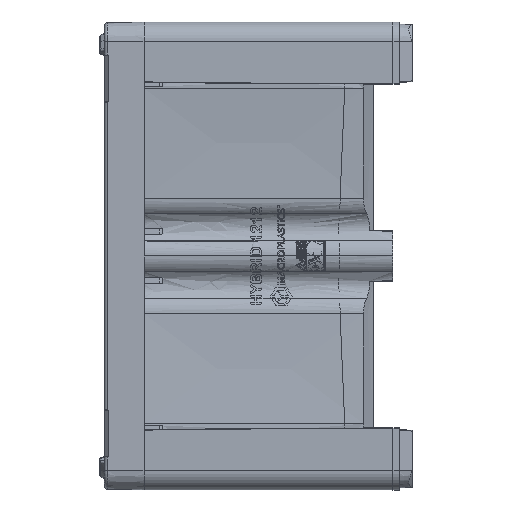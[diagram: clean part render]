
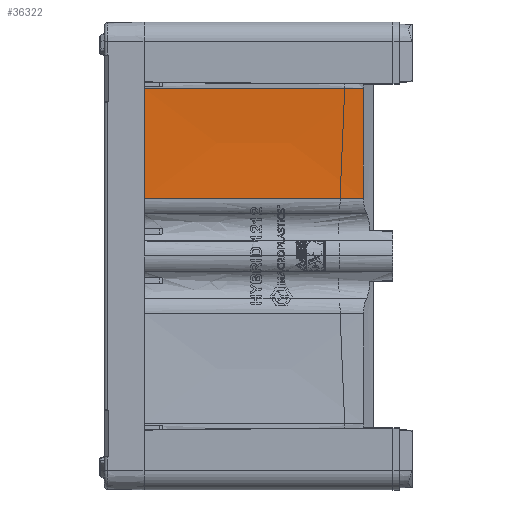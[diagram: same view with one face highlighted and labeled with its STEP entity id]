
A CAD part, left-side view. The second image highlights one B-rep face of the part: STEP entity #36322.
In plain terms, the highlighted free-form (B-spline) face has degree [3, 3] with [7, 4] control points.
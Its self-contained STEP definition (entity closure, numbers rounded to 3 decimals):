
#105 = CARTESIAN_POINT ( 'NONE',  ( -540.932, 125.716, 195.091 ) ) ;
#2969 = CARTESIAN_POINT ( 'NONE',  ( -575.478, 688.4, 429.838 ) ) ;
#7768 = B_SPLINE_SURFACE_WITH_KNOTS ( 'NONE', 3, 3, ( 
 ( #250627, #122458, #221772, #199407 ),
 ( #301811, #225001, #247406, #276207 ),
 ( #327429, #42370, #43441, #67966 ),
 ( #297415, #171546, #271838, #272924 ),
 ( #145895, #18954, #44549, #222844 ),
 ( #228356, #23343, #24473, #329638 ),
 ( #178134, #126823, #255077, #202724 ) ),
 .UNSPECIFIED., .F., .F., .F.,
 ( 4, 3, 4 ),
 ( 4, 4 ),
 ( 0., 0.5, 1. ),
 ( 0.033, 0.858 ),
 .UNSPECIFIED. ) ;
#9906 = CARTESIAN_POINT ( 'NONE',  ( -568.93, 500.914, 429.838 ) ) ;
#14295 = CARTESIAN_POINT ( 'NONE',  ( -570.411, 688.4, 383.046 ) ) ;
#15451 = CARTESIAN_POINT ( 'NONE',  ( -560.264, 688.4, 148.032 ) ) ;
#18472 = B_SPLINE_CURVE_WITH_KNOTS ( 'NONE', 3,
 ( #110136, #9906, #260650, #135759 ),
 .UNSPECIFIED., .F., .F.,
 ( 4, 4 ),
 ( 0.147, 0.963 ),
 .UNSPECIFIED. ) ;
#18954 = CARTESIAN_POINT ( 'NONE',  ( -553.469, 312.147, 336.142 ) ) ;
#22453 = ORIENTED_EDGE ( 'NONE', *, *, #126535, .F. ) ;
#22555 = CARTESIAN_POINT ( 'NONE',  ( -560.264, 688.4, 148.032 ) ) ;
#23343 = CARTESIAN_POINT ( 'NONE',  ( -557.275, 312.147, 383.076 ) ) ;
#24151 = EDGE_LOOP ( 'NONE', ( #198689, #82919, #48283, #22453 ) ) ;
#24473 = CARTESIAN_POINT ( 'NONE',  ( -563.903, 501.962, 383.076 ) ) ;
#25743 = CARTESIAN_POINT ( 'NONE',  ( -551.083, 125.869, 383.02 ) ) ;
#30398 = B_SPLINE_CURVE_WITH_KNOTS ( 'NONE', 3,
 ( #22555, #48111, #180680, #256477 ),
 .UNSPECIFIED., .F., .F.,
 ( 4, 4 ),
 ( 0.147, 0.963 ),
 .UNSPECIFIED. ) ;
#36322 = ADVANCED_FACE ( 'NONE', ( #200907 ), #7768, .F. ) ;
#42370 = CARTESIAN_POINT ( 'NONE',  ( -548.394, 312.147, 242.139 ) ) ;
#43441 = CARTESIAN_POINT ( 'NONE',  ( -555.022, 501.962, 242.139 ) ) ;
#44549 = CARTESIAN_POINT ( 'NONE',  ( -560.097, 501.962, 336.142 ) ) ;
#45356 = VERTEX_POINT ( 'NONE', #145463 ) ;
#48111 = CARTESIAN_POINT ( 'NONE',  ( -553.715, 500.837, 148.032 ) ) ;
#48283 = ORIENTED_EDGE ( 'NONE', *, *, #67551, .F. ) ;
#53514 = EDGE_CURVE ( 'NONE', #45356, #111614, #329476, .T. ) ;
#58364 = B_SPLINE_CURVE_WITH_KNOTS ( 'NONE', 3,
 ( #220407, #93342, #243862, #139018, #14295, #140148 ),
 .UNSPECIFIED., .F., .F.,
 ( 4, 2, 4 ),
 ( 0., 0.141, 0.282 ),
 .UNSPECIFIED. ) ;
#67551 = EDGE_CURVE ( 'NONE', #108039, #111614, #18472, .T. ) ;
#67966 = CARTESIAN_POINT ( 'NONE',  ( -561.651, 691.776, 242.139 ) ) ;
#80267 = CARTESIAN_POINT ( 'NONE',  ( -543.154, 125.75, 265.647 ) ) ;
#82919 = ORIENTED_EDGE ( 'NONE', *, *, #53514, .T. ) ;
#93342 = CARTESIAN_POINT ( 'NONE',  ( -560.264, 688.4, 195.098 ) ) ;
#102527 = CARTESIAN_POINT ( 'NONE',  ( -547.278, 125.812, 336.115 ) ) ;
#108039 = VERTEX_POINT ( 'NONE', #2969 ) ;
#110136 = CARTESIAN_POINT ( 'NONE',  ( -575.478, 688.4, 429.838 ) ) ;
#111614 = VERTEX_POINT ( 'NONE', #283199 ) ;
#122458 = CARTESIAN_POINT ( 'NONE',  ( -547.125, 312.147, 148.032 ) ) ;
#126535 = EDGE_CURVE ( 'NONE', #257139, #108039, #58364, .T. ) ;
#126823 = CARTESIAN_POINT ( 'NONE',  ( -562.338, 312.148, 429.838 ) ) ;
#135759 = CARTESIAN_POINT ( 'NONE',  ( -555.836, 125.942, 429.838 ) ) ;
#138166 = EDGE_CURVE ( 'NONE', #257139, #45356, #30398, .T. ) ;
#139018 = CARTESIAN_POINT ( 'NONE',  ( -566.608, 688.4, 336.151 ) ) ;
#140148 = CARTESIAN_POINT ( 'NONE',  ( -575.478, 688.4, 429.838 ) ) ;
#145463 = CARTESIAN_POINT ( 'NONE',  ( -540.615, 125.712, 148.032 ) ) ;
#145895 = CARTESIAN_POINT ( 'NONE',  ( -546.84, 122.333, 336.142 ) ) ;
#171546 = CARTESIAN_POINT ( 'NONE',  ( -550.931, 312.147, 289.141 ) ) ;
#178134 = CARTESIAN_POINT ( 'NONE',  ( -555.71, 122.333, 429.838 ) ) ;
#178326 = CARTESIAN_POINT ( 'NONE',  ( -542.202, 125.735, 242.131 ) ) ;
#180680 = CARTESIAN_POINT ( 'NONE',  ( -547.165, 313.275, 148.032 ) ) ;
#198689 = ORIENTED_EDGE ( 'NONE', *, *, #138166, .T. ) ;
#199407 = CARTESIAN_POINT ( 'NONE',  ( -560.382, 691.776, 148.032 ) ) ;
#200907 = FACE_OUTER_BOUND ( 'NONE', #24151, .T. ) ;
#202724 = CARTESIAN_POINT ( 'NONE',  ( -575.595, 691.777, 429.838 ) ) ;
#204022 = CARTESIAN_POINT ( 'NONE',  ( -555.836, 125.942, 429.838 ) ) ;
#205141 = CARTESIAN_POINT ( 'NONE',  ( -553.301, 125.903, 406.443 ) ) ;
#220407 = CARTESIAN_POINT ( 'NONE',  ( -560.264, 688.4, 148.032 ) ) ;
#221772 = CARTESIAN_POINT ( 'NONE',  ( -553.754, 501.962, 148.032 ) ) ;
#222844 = CARTESIAN_POINT ( 'NONE',  ( -566.726, 691.776, 336.142 ) ) ;
#225001 = CARTESIAN_POINT ( 'NONE',  ( -547.125, 312.147, 195.068 ) ) ;
#228356 = CARTESIAN_POINT ( 'NONE',  ( -550.646, 122.333, 383.076 ) ) ;
#231838 = CARTESIAN_POINT ( 'NONE',  ( -540.615, 125.712, 148.032 ) ) ;
#243862 = CARTESIAN_POINT ( 'NONE',  ( -561.534, 688.4, 242.156 ) ) ;
#247406 = CARTESIAN_POINT ( 'NONE',  ( -553.754, 501.962, 195.068 ) ) ;
#250627 = CARTESIAN_POINT ( 'NONE',  ( -540.497, 122.332, 148.032 ) ) ;
#255077 = CARTESIAN_POINT ( 'NONE',  ( -568.967, 501.962, 429.838 ) ) ;
#256477 = CARTESIAN_POINT ( 'NONE',  ( -540.615, 125.712, 148.032 ) ) ;
#257139 = VERTEX_POINT ( 'NONE', #15451 ) ;
#260650 = CARTESIAN_POINT ( 'NONE',  ( -562.383, 313.428, 429.838 ) ) ;
#271838 = CARTESIAN_POINT ( 'NONE',  ( -557.56, 501.962, 289.141 ) ) ;
#272924 = CARTESIAN_POINT ( 'NONE',  ( -564.188, 691.776, 289.141 ) ) ;
#276207 = CARTESIAN_POINT ( 'NONE',  ( -560.382, 691.776, 195.068 ) ) ;
#283199 = CARTESIAN_POINT ( 'NONE',  ( -555.836, 125.942, 429.838 ) ) ;
#297415 = CARTESIAN_POINT ( 'NONE',  ( -544.303, 122.332, 289.141 ) ) ;
#301811 = CARTESIAN_POINT ( 'NONE',  ( -540.497, 122.332, 195.068 ) ) ;
#305322 = CARTESIAN_POINT ( 'NONE',  ( -540.615, 125.709, 171.564 ) ) ;
#306433 = CARTESIAN_POINT ( 'NONE',  ( -545.692, 125.788, 312.635 ) ) ;
#327429 = CARTESIAN_POINT ( 'NONE',  ( -541.766, 122.332, 242.139 ) ) ;
#329476 = B_SPLINE_CURVE_WITH_KNOTS ( 'NONE', 3,
 ( #231838, #305322, #105, #178326, #80267, #306433, #102527, #25743, #205141, #204022 ),
 .UNSPECIFIED., .F., .F.,
 ( 4, 2, 2, 2, 4 ),
 ( 0., 0.071, 0.141, 0.212, 0.282 ),
 .UNSPECIFIED. ) ;
#329638 = CARTESIAN_POINT ( 'NONE',  ( -570.532, 691.777, 383.076 ) ) ;
